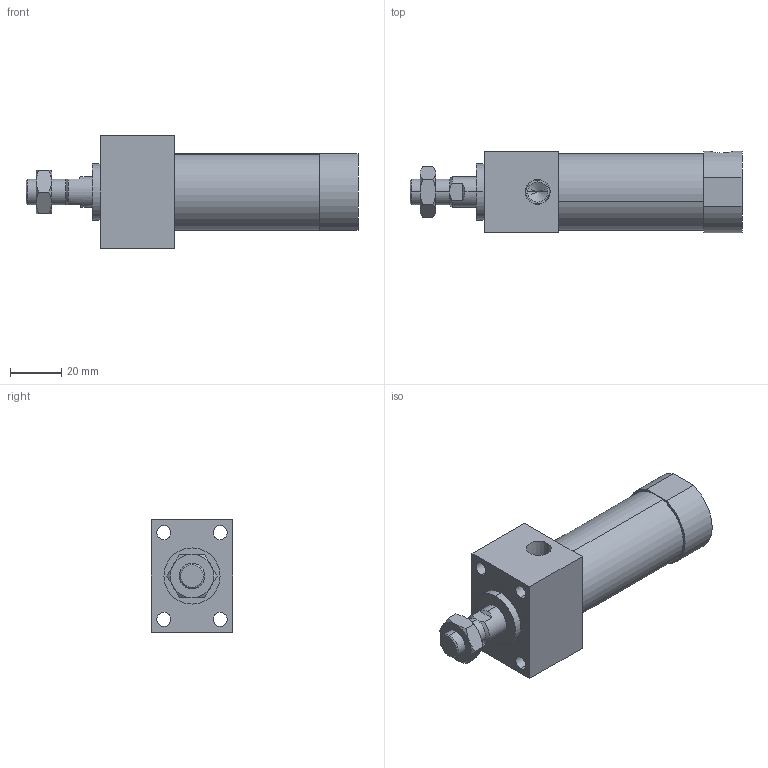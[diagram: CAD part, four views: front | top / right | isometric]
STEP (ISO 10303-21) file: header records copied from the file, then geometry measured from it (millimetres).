
FILE_DESCRIPTION (( 'STEP AP203' ), '1' );
FILE_NAME ('JGEF2-25-25.STEP', '2016-04-20T07:05:14', ( '' ), ( '' ), 'SwSTEP 2.0', 'SolidWorks 2014', '' );
FILE_SCHEMA (( 'CONFIG_CONTROL_DESIGN' ));
Length unit declared in the file: millimetre
Products named in the file (5): JGEF2-25-25; JGES2-25A; 25-25; M10x1.5-6mm; JGEF2-25B
Assembly tree (4 placements, depth 2):
  JGEF2-25-25
    JGEF2-25B
    25-25
    JGES2-25A
    M10x1.5-6mm
Bounding box: 130 x 32 x 44 mm (x, y, z)
Volume: 92489.8 mm3; surface area: 21825.5 mm2
Topology: 4 solids, 4 shells, 83 faces, 186 edges, 113 vertices
Faces by surface type: plane 29, cylinder 26, cone 16, torus 12
Entity records: 2977 total; most frequent: CARTESIAN_POINT 619, DIRECTION 406, ORIENTED_EDGE 360, EDGE_CURVE 180, AXIS2_PLACEMENT_3D 168, VERTEX_POINT 113, EDGE_LOOP 101, ADVANCED_FACE 83
